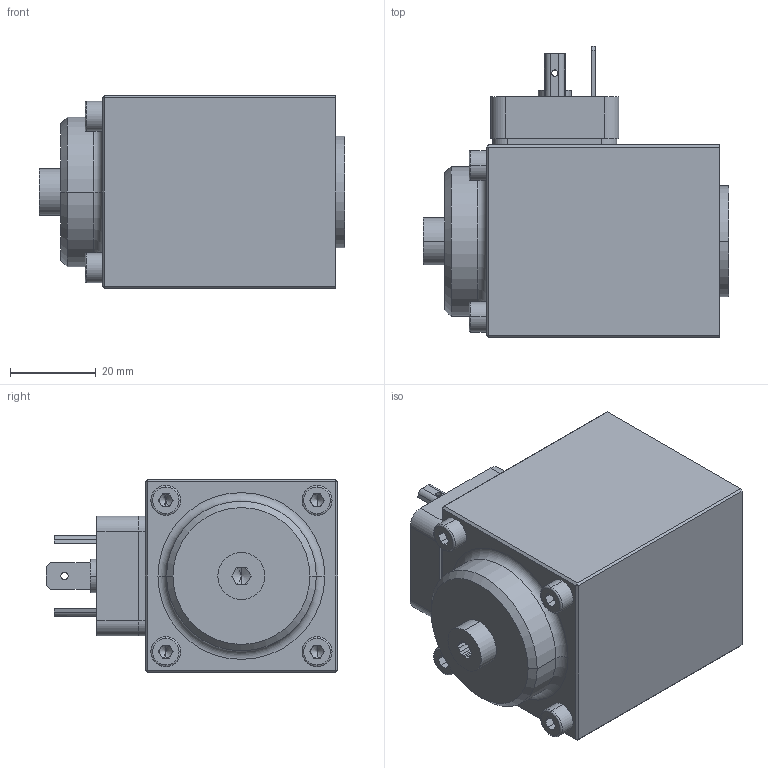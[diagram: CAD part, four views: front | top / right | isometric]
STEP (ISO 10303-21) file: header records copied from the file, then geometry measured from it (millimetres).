
FILE_DESCRIPTION (( 'STEP AP203' ), '1' );
FILE_NAME ('PI45V.step', '2013-07-29T06:45:43', ( 'Wandfluh AG' ), ( 'Wandfluh AG' ), 'SwSTEP 2.0', 'SolidWorks 2012', '' );
FILE_SCHEMA (( 'CONFIG_CONTROL_DESIGN' ));
Length unit declared in the file: millimetre
Products named in the file (1): PI45V
Bounding box: 71.4 x 68.1 x 45 mm (x, y, z)
Volume: 120190.5 mm3; surface area: 30218.9 mm2
Topology: 16 solids, 16 shells, 498 faces, 1245 edges, 785 vertices
Faces by surface type: plane 296, cylinder 134, cone 42, torus 20, bspline 6
Entity records: 14850 total; most frequent: CARTESIAN_POINT 2662, DIRECTION 2582, ORIENTED_EDGE 2450, EDGE_CURVE 1225, AXIS2_PLACEMENT_3D 885, LINE 812, VECTOR 812, VERTEX_POINT 785
